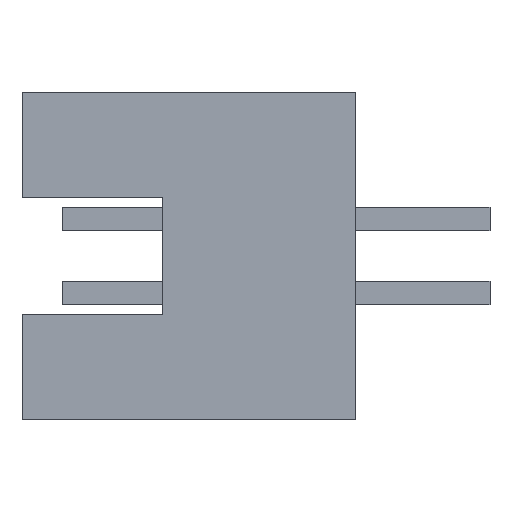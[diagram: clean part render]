
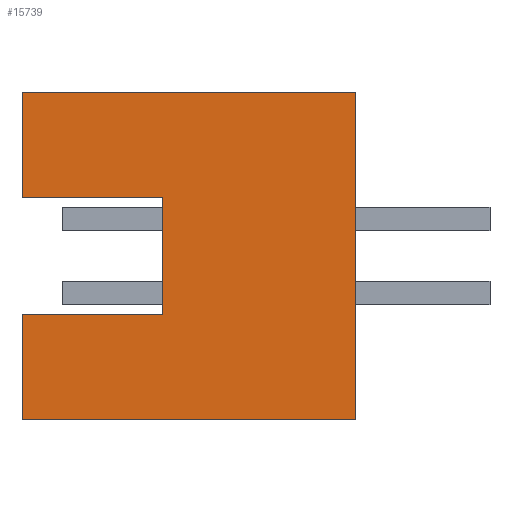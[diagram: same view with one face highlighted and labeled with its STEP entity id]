
A CAD part, left-side view. The second image highlights one B-rep face of the part: STEP entity #15739.
In plain terms, the highlighted planar face has unit normal (-1, 0, 0).
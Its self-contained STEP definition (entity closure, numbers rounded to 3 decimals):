
#334 = CARTESIAN_POINT ( 'NONE',  ( -25.549, -2.654, 2.8 ) ) ;
#964 = EDGE_CURVE ( 'NONE', #24625, #13335, #2446, .T. ) ;
#2427 = CARTESIAN_POINT ( 'NONE',  ( -25.549, 3.046, 2.8 ) ) ;
#2446 = LINE ( 'NONE', #25465, #28136 ) ;
#2749 = VECTOR ( 'NONE', #5426, 1000. ) ;
#4372 = CARTESIAN_POINT ( 'NONE',  ( -25.549, 0.646, -1. ) ) ;
#4579 = EDGE_CURVE ( 'NONE', #15375, #5054, #17795, .T. ) ;
#4919 = DIRECTION ( 'NONE',  ( 0., 1., 0. ) ) ;
#5054 = VERTEX_POINT ( 'NONE', #29118 ) ;
#5426 = DIRECTION ( 'NONE',  ( 0., 0., -1. ) ) ;
#10225 = CARTESIAN_POINT ( 'NONE',  ( -25.549, 3.046, -2.8 ) ) ;
#11595 = VERTEX_POINT ( 'NONE', #31141 ) ;
#12097 = ORIENTED_EDGE ( 'NONE', *, *, #32598, .T. ) ;
#12382 = VERTEX_POINT ( 'NONE', #28412 ) ;
#12778 = DIRECTION ( 'NONE',  ( 1., 0., 0. ) ) ;
#13335 = VERTEX_POINT ( 'NONE', #19673 ) ;
#13884 = EDGE_CURVE ( 'NONE', #11595, #12382, #31359, .T. ) ;
#14114 = ORIENTED_EDGE ( 'NONE', *, *, #19918, .T. ) ;
#14549 = DIRECTION ( 'NONE',  ( 0., 0., -1. ) ) ;
#14600 = ORIENTED_EDGE ( 'NONE', *, *, #4579, .F. ) ;
#14748 = LINE ( 'NONE', #21679, #19196 ) ;
#15375 = VERTEX_POINT ( 'NONE', #25368 ) ;
#15599 = CARTESIAN_POINT ( 'NONE',  ( -25.549, -2.654, 2.8 ) ) ;
#15739 = ADVANCED_FACE ( 'NONE', ( #22347 ), #22984, .F. ) ;
#16738 = DIRECTION ( 'NONE',  ( 0., 0., -1. ) ) ;
#16807 = VECTOR ( 'NONE', #29079, 1000. ) ;
#16944 = CARTESIAN_POINT ( 'NONE',  ( -25.549, 0.646, 1. ) ) ;
#17321 = VECTOR ( 'NONE', #22893, 1000. ) ;
#17795 = LINE ( 'NONE', #10225, #17321 ) ;
#17916 = EDGE_CURVE ( 'NONE', #22300, #15375, #20730, .T. ) ;
#19196 = VECTOR ( 'NONE', #16738, 1000. ) ;
#19360 = LINE ( 'NONE', #4372, #24845 ) ;
#19590 = CARTESIAN_POINT ( 'NONE',  ( -25.549, 3.046, 2.8 ) ) ;
#19673 = CARTESIAN_POINT ( 'NONE',  ( -25.549, 3.046, 1. ) ) ;
#19918 = EDGE_CURVE ( 'NONE', #24625, #11595, #19360, .T. ) ;
#20730 = LINE ( 'NONE', #334, #2749 ) ;
#21494 = CARTESIAN_POINT ( 'NONE',  ( -25.549, 3.046, 2.8 ) ) ;
#21591 = ORIENTED_EDGE ( 'NONE', *, *, #17916, .F. ) ;
#21679 = CARTESIAN_POINT ( 'NONE',  ( -25.549, 3.046, 2.8 ) ) ;
#22300 = VERTEX_POINT ( 'NONE', #15599 ) ;
#22347 = FACE_OUTER_BOUND ( 'NONE', #29534, .T. ) ;
#22425 = ORIENTED_EDGE ( 'NONE', *, *, #24638, .T. ) ;
#22825 = DIRECTION ( 'NONE',  ( 0., 0., 1. ) ) ;
#22893 = DIRECTION ( 'NONE',  ( 0., 1., 0. ) ) ;
#22984 = PLANE ( 'NONE',  #24751 ) ;
#23650 = VERTEX_POINT ( 'NONE', #24376 ) ;
#24376 = CARTESIAN_POINT ( 'NONE',  ( -25.549, 3.046, 2.8 ) ) ;
#24456 = LINE ( 'NONE', #21494, #16807 ) ;
#24625 = VERTEX_POINT ( 'NONE', #16944 ) ;
#24638 = EDGE_CURVE ( 'NONE', #22300, #23650, #27335, .T. ) ;
#24751 = AXIS2_PLACEMENT_3D ( 'NONE', #2427, #12778, #22825 ) ;
#24845 = VECTOR ( 'NONE', #14549, 1000. ) ;
#24894 = EDGE_CURVE ( 'NONE', #12382, #5054, #14748, .T. ) ;
#25368 = CARTESIAN_POINT ( 'NONE',  ( -25.549, -2.654, -2.8 ) ) ;
#25465 = CARTESIAN_POINT ( 'NONE',  ( -25.549, 0.646, 1. ) ) ;
#27160 = ORIENTED_EDGE ( 'NONE', *, *, #13884, .T. ) ;
#27335 = LINE ( 'NONE', #19590, #27692 ) ;
#27692 = VECTOR ( 'NONE', #32117, 1000. ) ;
#28136 = VECTOR ( 'NONE', #4919, 1000. ) ;
#28412 = CARTESIAN_POINT ( 'NONE',  ( -25.549, 3.046, -1. ) ) ;
#28873 = DIRECTION ( 'NONE',  ( 0., 1., 0. ) ) ;
#29079 = DIRECTION ( 'NONE',  ( 0., 0., -1. ) ) ;
#29087 = VECTOR ( 'NONE', #28873, 1000. ) ;
#29118 = CARTESIAN_POINT ( 'NONE',  ( -25.549, 3.046, -2.8 ) ) ;
#29534 = EDGE_LOOP ( 'NONE', ( #22425, #12097, #30667, #14114, #27160, #32597, #14600, #21591 ) ) ;
#30667 = ORIENTED_EDGE ( 'NONE', *, *, #964, .F. ) ;
#31029 = CARTESIAN_POINT ( 'NONE',  ( -25.549, 0.646, -1. ) ) ;
#31141 = CARTESIAN_POINT ( 'NONE',  ( -25.549, 0.646, -1. ) ) ;
#31359 = LINE ( 'NONE', #31029, #29087 ) ;
#32117 = DIRECTION ( 'NONE',  ( 0., 1., 0. ) ) ;
#32598 = EDGE_CURVE ( 'NONE', #23650, #13335, #24456, .T. ) ;
#32597 = ORIENTED_EDGE ( 'NONE', *, *, #24894, .T. ) ;
